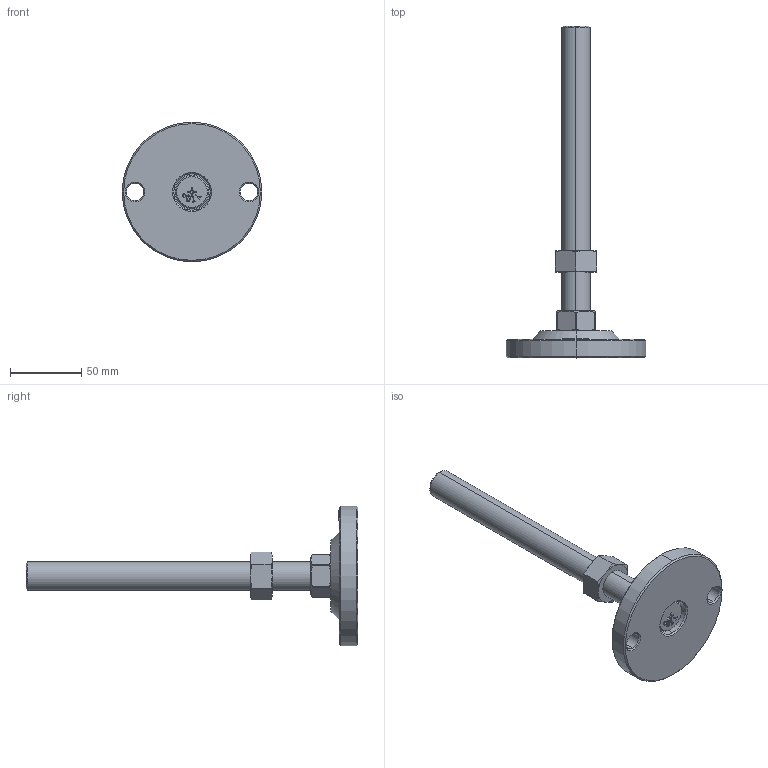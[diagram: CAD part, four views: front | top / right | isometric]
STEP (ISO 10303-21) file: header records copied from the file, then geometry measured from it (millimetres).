
FILE_DESCRIPTION (( 'STEP AP203' ), '1' );
FILE_NAME ('KL-100-20200-P.STEP', '2020-09-10T02:33:16', ( '' ), ( '' ), 'SwSTEP 2.0', 'SolidWorks 2016', '' );
FILE_SCHEMA (( 'CONFIG_CONTROL_DESIGN' ));
Length unit declared in the file: millimetre
Products named in the file (5): KL-100-20200-P; 脚垫调节六角螺母M20; 螺丝平底十字带商标M10系列_M10X14; KL-100-0.1 KL100菁釱; 眻芛蹟邡M20炵蹈_M20X200
Assembly tree (4 placements, depth 2):
  KL-100-20200-P
    KL-100-0.1 KL100菁釱
    眻芛蹟邡M20炵蹈_M20X200
    脚垫调节六角螺母M20
    螺丝平底十字带商标M10系列_M10X14
Bounding box: 98 x 233 x 98 mm (x, y, z)
Volume: 184913.1 mm3; surface area: 40867.2 mm2
Topology: 4 solids, 4 shells, 211 faces, 514 edges, 326 vertices
Faces by surface type: plane 101, cone 54, cylinder 32, bspline 24
Entity records: 8435 total; most frequent: CARTESIAN_POINT 3158, ORIENTED_EDGE 1020, DIRECTION 902, EDGE_CURVE 510, VERTEX_POINT 326, AXIS2_PLACEMENT_3D 306, VECTOR 290, LINE 290
